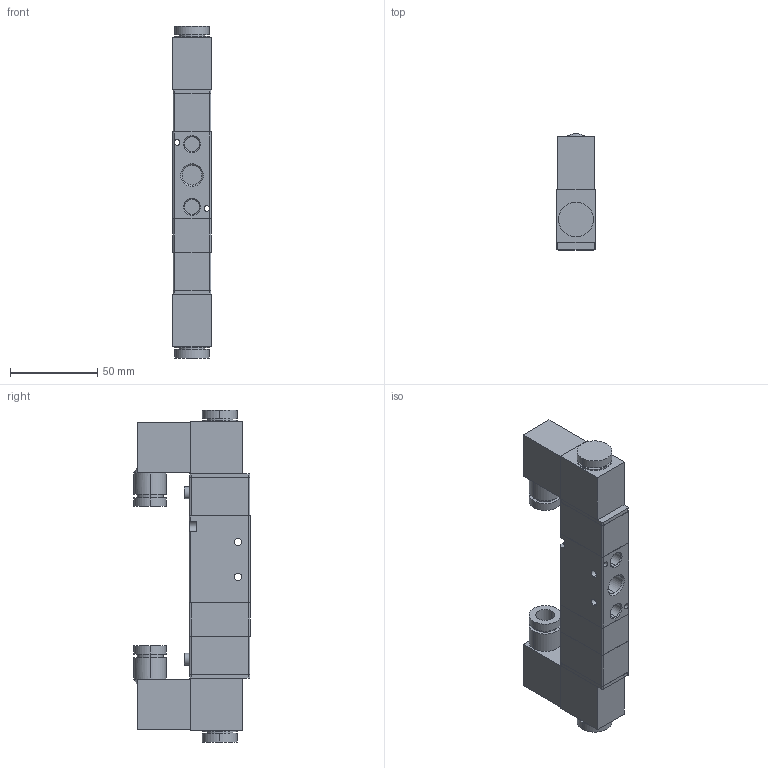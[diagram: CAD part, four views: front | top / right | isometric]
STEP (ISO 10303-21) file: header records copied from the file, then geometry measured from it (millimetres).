
FILE_DESCRIPTION (( 'STEP AP203' ), '1' );
FILE_NAME ('VB5-F02.STEP', '2020-04-15T17:00:48', ( '' ), ( '' ), 'SwSTEP 2.0', 'SolidWorks 2019', '' );
FILE_SCHEMA (( 'CONFIG_CONTROL_DESIGN' ));
Length unit declared in the file: millimetre
Products named in the file (1): VB5-F02
Bounding box: 22 x 66.8 x 190.8 mm (x, y, z)
Volume: 171670 mm3; surface area: 35236.9 mm2
Topology: 1 solids, 1 shells, 174 faces, 422 edges, 274 vertices
Faces by surface type: plane 84, cylinder 78, cone 12
Entity records: 5317 total; most frequent: CARTESIAN_POINT 977, DIRECTION 944, ORIENTED_EDGE 844, EDGE_CURVE 422, AXIS2_PLACEMENT_3D 351, VERTEX_POINT 274, LINE 242, VECTOR 242
